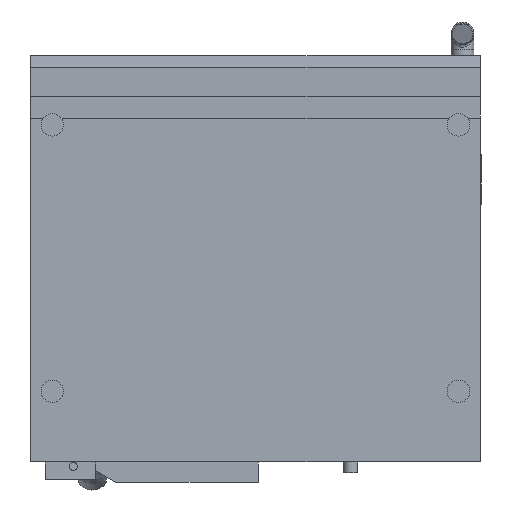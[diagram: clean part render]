
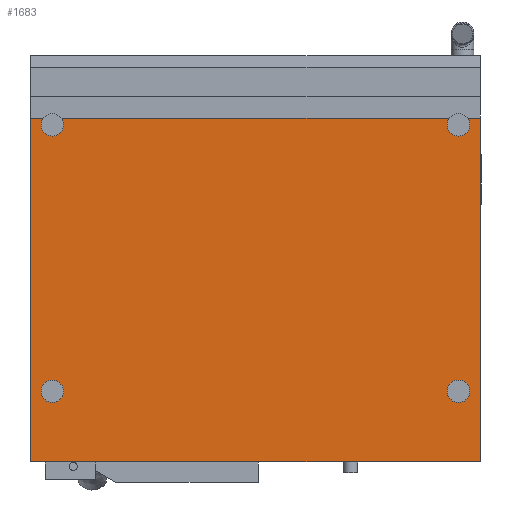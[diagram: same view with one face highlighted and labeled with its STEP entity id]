
A CAD part, front view. The second image highlights one B-rep face of the part: STEP entity #1683.
In plain terms, the highlighted planar face has unit normal (0, -1, 0).
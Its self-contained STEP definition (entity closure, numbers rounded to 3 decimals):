
#637 = ORIENTED_EDGE ( 'NONE', *, *, #8289, .F. ) ;
#1096 = DIRECTION ( 'NONE',  ( 0., 0., -1. ) ) ;
#1221 = VERTEX_POINT ( 'NONE', #2470 ) ;
#1681 = CARTESIAN_POINT ( 'NONE',  ( 0., 0., 0. ) ) ;
#1683 = ADVANCED_FACE ( 'NONE', ( #9612 ), #2455, .F. ) ;
#1843 = CARTESIAN_POINT ( 'NONE',  ( 0., 0., 0. ) ) ;
#2455 = PLANE ( 'NONE',  #4556 ) ;
#2470 = CARTESIAN_POINT ( 'NONE',  ( 0., 0., 610.5 ) ) ;
#3221 = VERTEX_POINT ( 'NONE', #7025 ) ;
#3451 = VECTOR ( 'NONE', #8089, 1000. ) ;
#3986 = EDGE_CURVE ( 'NONE', #5085, #1221, #8034, .T. ) ;
#4056 = CARTESIAN_POINT ( 'NONE',  ( 798., 0., 0. ) ) ;
#4539 = CARTESIAN_POINT ( 'NONE',  ( 0., 0., 0. ) ) ;
#4556 = AXIS2_PLACEMENT_3D ( 'NONE', #1681, #7776, #4730 ) ;
#4730 = DIRECTION ( 'NONE',  ( 0., 0., 1. ) ) ;
#4753 = ORIENTED_EDGE ( 'NONE', *, *, #3986, .F. ) ;
#4788 = VECTOR ( 'NONE', #6050, 1000. ) ;
#5085 = VERTEX_POINT ( 'NONE', #7292 ) ;
#5320 = VECTOR ( 'NONE', #1096, 1000. ) ;
#5410 = VERTEX_POINT ( 'NONE', #5541 ) ;
#5541 = CARTESIAN_POINT ( 'NONE',  ( 798., 0., 0. ) ) ;
#5560 = LINE ( 'NONE', #4056, #5320 ) ;
#6009 = ORIENTED_EDGE ( 'NONE', *, *, #7329, .F. ) ;
#6050 = DIRECTION ( 'NONE',  ( 0., 0., 1. ) ) ;
#6161 = EDGE_LOOP ( 'NONE', ( #4753, #6533, #637, #6009 ) ) ;
#6533 = ORIENTED_EDGE ( 'NONE', *, *, #8895, .F. ) ;
#7025 = CARTESIAN_POINT ( 'NONE',  ( 798., 0., 610.5 ) ) ;
#7149 = DIRECTION ( 'NONE',  ( -1., 0., 0. ) ) ;
#7292 = CARTESIAN_POINT ( 'NONE',  ( 0., 0., 0. ) ) ;
#7329 = EDGE_CURVE ( 'NONE', #1221, #3221, #7851, .T. ) ;
#7776 = DIRECTION ( 'NONE',  ( 0., 1., 0. ) ) ;
#7851 = LINE ( 'NONE', #8157, #3451 ) ;
#8034 = LINE ( 'NONE', #4539, #4788 ) ;
#8089 = DIRECTION ( 'NONE',  ( 1., 0., 0. ) ) ;
#8157 = CARTESIAN_POINT ( 'NONE',  ( 0., 0., 610.5 ) ) ;
#8289 = EDGE_CURVE ( 'NONE', #3221, #5410, #5560, .T. ) ;
#8535 = LINE ( 'NONE', #1843, #8911 ) ;
#8895 = EDGE_CURVE ( 'NONE', #5410, #5085, #8535, .T. ) ;
#8911 = VECTOR ( 'NONE', #7149, 1000. ) ;
#9612 = FACE_OUTER_BOUND ( 'NONE', #6161, .T. ) ;
